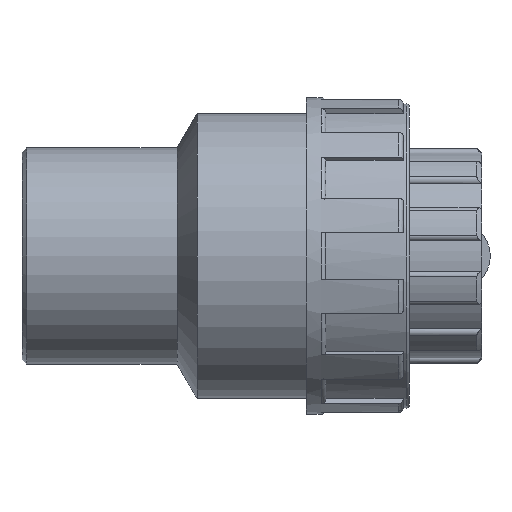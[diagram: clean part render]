
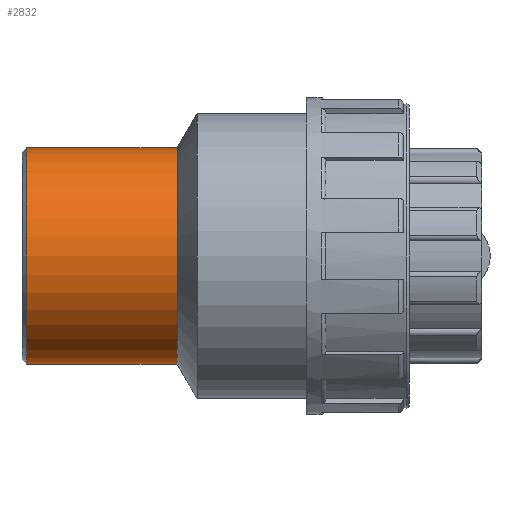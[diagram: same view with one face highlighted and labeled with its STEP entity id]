
A CAD part, front view. The second image highlights one B-rep face of the part: STEP entity #2832.
In plain terms, the highlighted cylindrical face has radius 27.266 mm (diameter 54.533 mm), a full revolution.
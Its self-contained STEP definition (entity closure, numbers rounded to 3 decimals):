
#31=FACE_BOUND('',#492,.T.);
#309=FACE_OUTER_BOUND('',#491,.T.);
#491=EDGE_LOOP('',(#2603));
#492=EDGE_LOOP('',(#2604));
#685=CIRCLE('',#3179,27.266);
#686=CIRCLE('',#3181,27.266);
#1358=VERTEX_POINT('',#5587);
#1359=VERTEX_POINT('',#5590);
#1776=EDGE_CURVE('',#1358,#1358,#685,.T.);
#1777=EDGE_CURVE('',#1359,#1359,#686,.T.);
#2603=ORIENTED_EDGE('',*,*,#1777,.F.);
#2604=ORIENTED_EDGE('',*,*,#1776,.F.);
#2670=CYLINDRICAL_SURFACE('',#3180,27.266);
#2832=ADVANCED_FACE('',(#309,#31),#2670,.T.);
#3179=AXIS2_PLACEMENT_3D('',#5588,#4034,#4035);
#3180=AXIS2_PLACEMENT_3D('',#5589,#4036,#4037);
#3181=AXIS2_PLACEMENT_3D('',#5591,#4038,#4039);
#4034=DIRECTION('center_axis',(-1.,0.,0.));
#4035=DIRECTION('ref_axis',(0.,-1.,0.));
#4036=DIRECTION('center_axis',(1.,0.,0.));
#4037=DIRECTION('ref_axis',(0.,1.,0.));
#4038=DIRECTION('center_axis',(1.,0.,0.));
#4039=DIRECTION('ref_axis',(0.,0.,-1.));
#5587=CARTESIAN_POINT('',(-56.831,27.266,0.));
#5588=CARTESIAN_POINT('Origin',(-56.831,0.,0.));
#5589=CARTESIAN_POINT('Origin',(-38.421,0.,0.));
#5590=CARTESIAN_POINT('',(-18.842,27.266,0.));
#5591=CARTESIAN_POINT('Origin',(-18.842,0.,0.));
